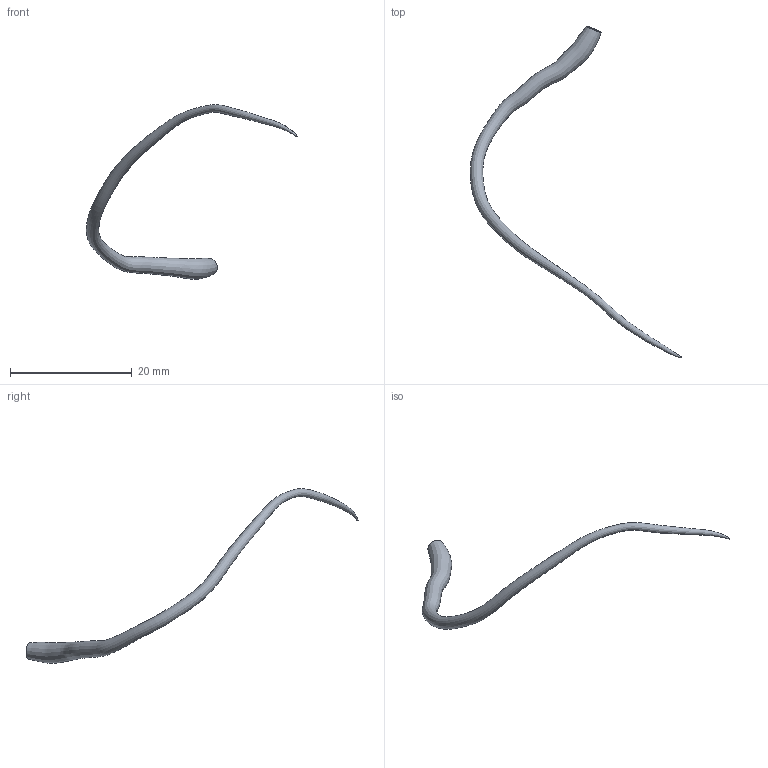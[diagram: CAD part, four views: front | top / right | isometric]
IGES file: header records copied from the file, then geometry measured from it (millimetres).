
Global section: file name: C:\Documents and Settings\Administrator\Desktop\FDA-Pig\Domestic LCA\Pig_000137\lcx.seg.ed.igs; native system: Rhinoceros ( May 19 2006 ); preprocessor: Trout Lake IGES 012 May 19 2006; date: 111205.184204; units: centimetre
Bounding box: 34.65 x 54.43 x 28.63 mm (x, y, z)
Surface area: 1003.8 mm2 (no closed solid volume)
Topology: 0 solids, 0 shells, 4 faces, 13 edges, 10 vertices
Faces by surface type: bspline 4
